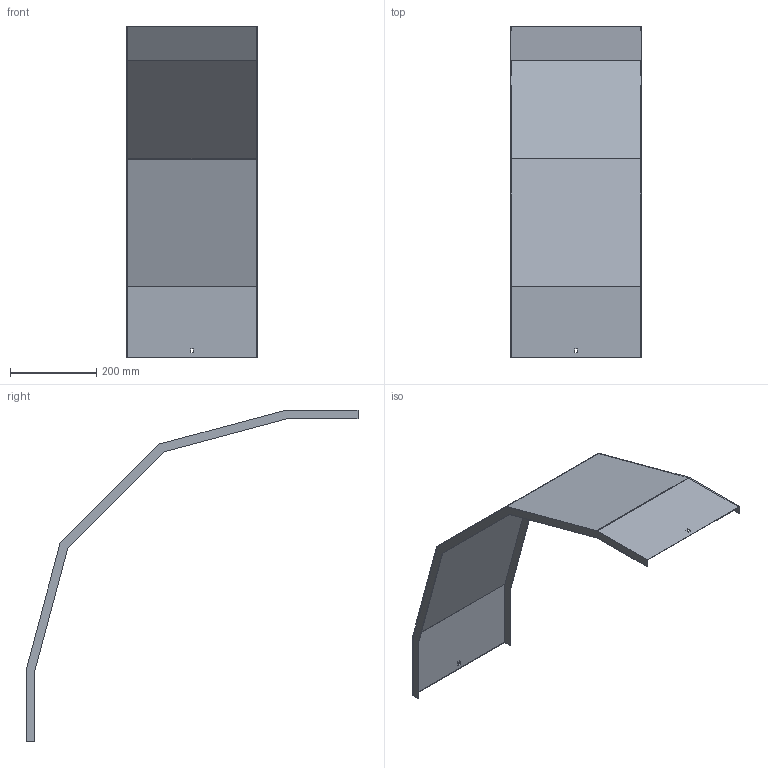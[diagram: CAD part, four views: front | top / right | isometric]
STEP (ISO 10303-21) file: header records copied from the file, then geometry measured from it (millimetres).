
FILE_DESCRIPTION (( 'STEP AP214' ), '1' );
FILE_NAME ('33N5D300.step', '2025-02-21T10:43:17', ( '' ), ( '' ), 'SwSTEP 2.0', 'SolidWorks 2023', '' );
FILE_SCHEMA (( 'AUTOMOTIVE_DESIGN' ));
Length unit declared in the file: millimetre
Products named in the file (1): 33N5D300
Bounding box: 303 x 769.82 x 769.82 mm (x, y, z)
Volume: 644989.7 mm3; surface area: 864810.9 mm2
Topology: 1 solids, 1 shells, 34 faces, 96 edges, 64 vertices
Faces by surface type: plane 34
Entity records: 1111 total; most frequent: CARTESIAN_POINT 195, ORIENTED_EDGE 192, DIRECTION 166, VECTOR 96, EDGE_CURVE 96, LINE 96, VERTEX_POINT 64, EDGE_LOOP 38
